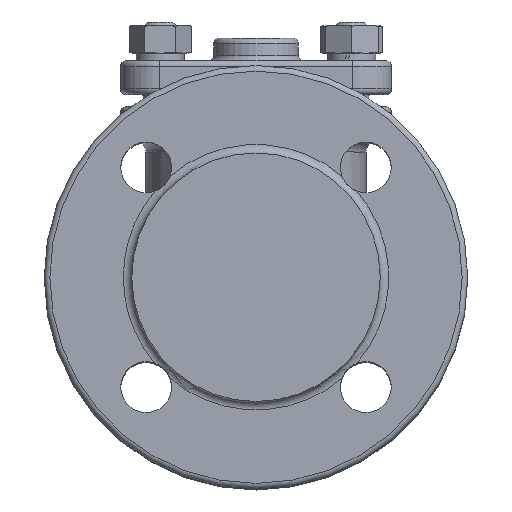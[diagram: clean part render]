
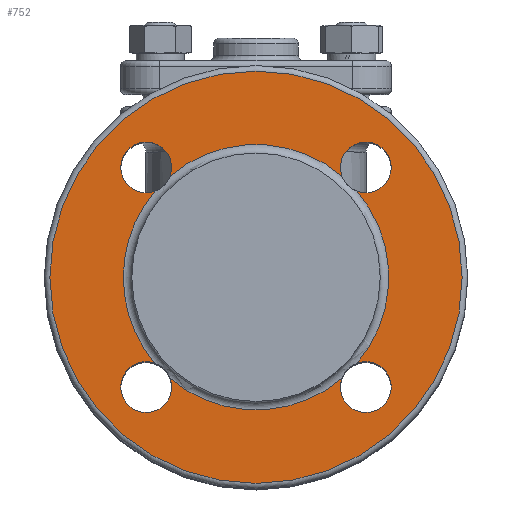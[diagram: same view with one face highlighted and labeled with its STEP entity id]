
A CAD part, top view. The second image highlights one B-rep face of the part: STEP entity #752.
In plain terms, the highlighted planar face has unit normal (0, 0, 1).
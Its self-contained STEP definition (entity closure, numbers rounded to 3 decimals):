
#752=ADVANCED_FACE('',(#1137,#1138),#1030,.F.);
#1030=PLANE('',#4493);
#1137=FACE_BOUND('',#1307,.T.);
#1138=FACE_BOUND('',#1308,.T.);
#1307=EDGE_LOOP('',(#1993));
#1308=EDGE_LOOP('',(#1994,#1995,#1996,#1997,#1998,#1999,#2000,#2001));
#1993=ORIENTED_EDGE('',*,*,#3616,.T.);
#1994=ORIENTED_EDGE('',*,*,#3617,.F.);
#1995=ORIENTED_EDGE('',*,*,#3618,.T.);
#1996=ORIENTED_EDGE('',*,*,#3619,.T.);
#1997=ORIENTED_EDGE('',*,*,#3620,.T.);
#1998=ORIENTED_EDGE('',*,*,#3621,.F.);
#1999=ORIENTED_EDGE('',*,*,#3622,.T.);
#2000=ORIENTED_EDGE('',*,*,#3623,.T.);
#2001=ORIENTED_EDGE('',*,*,#3624,.T.);
#3216=VERTEX_POINT('',#9278);
#3217=VERTEX_POINT('',#9280);
#3218=VERTEX_POINT('',#9281);
#3219=VERTEX_POINT('',#9283);
#3220=VERTEX_POINT('',#9285);
#3221=VERTEX_POINT('',#9287);
#3222=VERTEX_POINT('',#9289);
#3223=VERTEX_POINT('',#9291);
#3224=VERTEX_POINT('',#9293);
#3616=EDGE_CURVE('',#3216,#3216,#4179,.T.);
#3617=EDGE_CURVE('',#3217,#3218,#4180,.T.);
#3618=EDGE_CURVE('',#3217,#3219,#4181,.T.);
#3619=EDGE_CURVE('',#3219,#3220,#4182,.T.);
#3620=EDGE_CURVE('',#3220,#3221,#4183,.T.);
#3621=EDGE_CURVE('',#3222,#3221,#4184,.T.);
#3622=EDGE_CURVE('',#3222,#3223,#4185,.T.);
#3623=EDGE_CURVE('',#3223,#3224,#4186,.T.);
#3624=EDGE_CURVE('',#3224,#3218,#4187,.T.);
#4179=CIRCLE('',#4484,73.);
#4180=CIRCLE('',#4485,9.);
#4181=CIRCLE('',#4486,47.);
#4182=CIRCLE('',#4487,9.);
#4183=CIRCLE('',#4488,47.);
#4184=CIRCLE('',#4489,9.);
#4185=CIRCLE('',#4490,47.);
#4186=CIRCLE('',#4491,9.);
#4187=CIRCLE('',#4492,47.);
#4484=AXIS2_PLACEMENT_3D('',#9277,#5144,#5145);
#4485=AXIS2_PLACEMENT_3D('',#9279,#5146,#5147);
#4486=AXIS2_PLACEMENT_3D('',#9282,#5148,#5149);
#4487=AXIS2_PLACEMENT_3D('',#9284,#5150,#5151);
#4488=AXIS2_PLACEMENT_3D('',#9286,#5152,#5153);
#4489=AXIS2_PLACEMENT_3D('',#9288,#5154,#5155);
#4490=AXIS2_PLACEMENT_3D('',#9290,#5156,#5157);
#4491=AXIS2_PLACEMENT_3D('',#9292,#5158,#5159);
#4492=AXIS2_PLACEMENT_3D('',#9294,#5160,#5161);
#4493=AXIS2_PLACEMENT_3D('',#9295,#5162,#5163);
#5144=DIRECTION('',(0.,0.,1.));
#5145=DIRECTION('',(-1.,0.,0.));
#5146=DIRECTION('',(0.,0.,1.));
#5147=DIRECTION('',(-1.,0.,0.));
#5148=DIRECTION('',(0.,0.,-1.));
#5149=DIRECTION('',(-1.,0.,0.));
#5150=DIRECTION('',(0.,0.,-1.));
#5151=DIRECTION('',(-1.,0.,0.));
#5152=DIRECTION('',(0.,0.,-1.));
#5153=DIRECTION('',(-1.,0.,0.));
#5154=DIRECTION('',(0.,0.,1.));
#5155=DIRECTION('',(-1.,0.,0.));
#5156=DIRECTION('',(0.,0.,-1.));
#5157=DIRECTION('',(-1.,0.,0.));
#5158=DIRECTION('',(0.,0.,-1.));
#5159=DIRECTION('',(-1.,0.,0.));
#5160=DIRECTION('',(0.,0.,-1.));
#5161=DIRECTION('',(-1.,0.,0.));
#5162=DIRECTION('',(0.,0.,-1.));
#5163=DIRECTION('',(-1.,0.,0.));
#9277=CARTESIAN_POINT('',(0.,0.,97.));
#9278=CARTESIAN_POINT('',(-73.,0.,97.));
#9279=CARTESIAN_POINT('',(-38.891,38.891,97.));
#9280=CARTESIAN_POINT('',(-30.432,35.818,97.));
#9281=CARTESIAN_POINT('',(-35.818,30.432,97.));
#9282=CARTESIAN_POINT('',(0.,0.,97.));
#9283=CARTESIAN_POINT('',(30.432,35.818,97.));
#9284=CARTESIAN_POINT('',(38.891,38.891,97.));
#9285=CARTESIAN_POINT('',(35.818,30.432,97.));
#9286=CARTESIAN_POINT('',(0.,0.,97.));
#9287=CARTESIAN_POINT('',(35.818,-30.432,97.));
#9288=CARTESIAN_POINT('',(38.891,-38.891,97.));
#9289=CARTESIAN_POINT('',(30.432,-35.818,97.));
#9290=CARTESIAN_POINT('',(0.,0.,97.));
#9291=CARTESIAN_POINT('',(-30.432,-35.818,97.));
#9292=CARTESIAN_POINT('',(-38.891,-38.891,97.));
#9293=CARTESIAN_POINT('',(-35.818,-30.432,97.));
#9294=CARTESIAN_POINT('',(0.,0.,97.));
#9295=CARTESIAN_POINT('',(0.,44.,97.));
